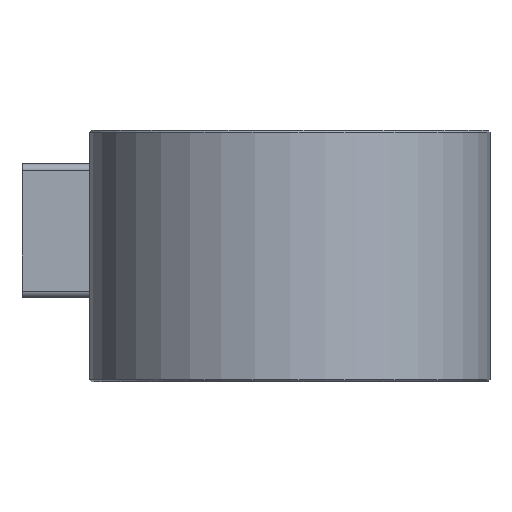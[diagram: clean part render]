
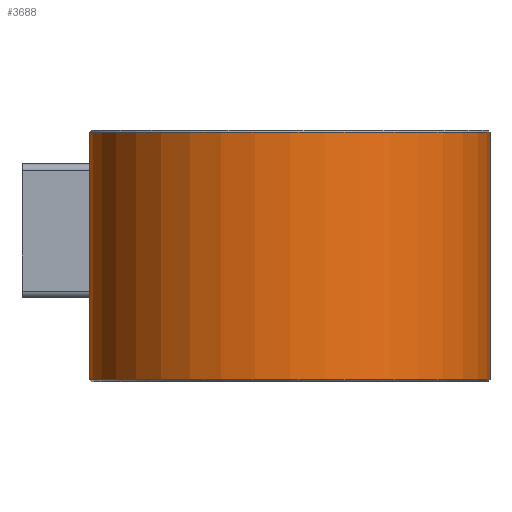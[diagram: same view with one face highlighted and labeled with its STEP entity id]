
A CAD part, front view. The second image highlights one B-rep face of the part: STEP entity #3688.
In plain terms, the highlighted cylindrical face has radius 59.8 mm (diameter 119.6 mm), a full revolution.
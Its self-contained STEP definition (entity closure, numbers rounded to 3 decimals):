
#45=FACE_BOUND('',#461,.T.);
#74=B_SPLINE_CURVE_WITH_KNOTS('',3,(#5529,#5530,#5531,#5532,#5533,#5534,
#5535,#5536,#5537,#5538,#5539,#5540,#5541,#5542,#5543,#5544,#5545,#5546),
 .UNSPECIFIED.,.F.,.F.,(4,2,2,2,2,2,2,2,4),(1.018,1.272,
1.527,1.781,2.036,2.29,2.545,
2.799,3.054),.UNSPECIFIED.);
#75=B_SPLINE_CURVE_WITH_KNOTS('',3,(#5548,#5549,#5550,#5551,#5552,#5553,
#5554,#5555,#5556,#5557),.UNSPECIFIED.,.F.,.F.,(4,2,2,2,4),(4.072,
4.326,4.581,4.835,5.09),
 .UNSPECIFIED.);
#76=B_SPLINE_CURVE_WITH_KNOTS('',3,(#5561,#5562,#5563,#5564,#5565,#5566,
#5567,#5568,#5569,#5570),.UNSPECIFIED.,.F.,.F.,(4,2,2,2,4),(3.054,
3.308,3.563,3.817,4.072),
 .UNSPECIFIED.);
#234=FACE_OUTER_BOUND('',#460,.T.);
#460=EDGE_LOOP('',(#2381,#2382,#2383,#2384,#2385,#2386));
#461=EDGE_LOOP('',(#2387,#2388,#2389));
#714=LINE('',#5611,#1015);
#1015=VECTOR('',#4421,59.8);
#1310=CIRCLE('',#3956,59.8);
#1311=CIRCLE('',#3957,59.8);
#1312=CIRCLE('',#3959,59.8);
#1313=CIRCLE('',#3960,59.8);
#1500=VERTEX_POINT('',#5527);
#1501=VERTEX_POINT('',#5528);
#1502=VERTEX_POINT('',#5547);
#1510=VERTEX_POINT('',#5601);
#1511=VERTEX_POINT('',#5602);
#1512=VERTEX_POINT('',#5607);
#1513=VERTEX_POINT('',#5608);
#1828=EDGE_CURVE('',#1500,#1501,#74,.T.);
#1829=EDGE_CURVE('',#1502,#1500,#75,.T.);
#1832=EDGE_CURVE('',#1501,#1502,#76,.T.);
#1843=EDGE_CURVE('',#1510,#1511,#1310,.T.);
#1844=EDGE_CURVE('',#1511,#1510,#1311,.T.);
#1846=EDGE_CURVE('',#1512,#1513,#1312,.T.);
#1847=EDGE_CURVE('',#1513,#1512,#1313,.T.);
#1848=EDGE_CURVE('',#1513,#1511,#714,.T.);
#2381=ORIENTED_EDGE('',*,*,#1846,.F.);
#2382=ORIENTED_EDGE('',*,*,#1847,.F.);
#2383=ORIENTED_EDGE('',*,*,#1848,.T.);
#2384=ORIENTED_EDGE('',*,*,#1843,.F.);
#2385=ORIENTED_EDGE('',*,*,#1844,.F.);
#2386=ORIENTED_EDGE('',*,*,#1848,.F.);
#2387=ORIENTED_EDGE('',*,*,#1832,.T.);
#2388=ORIENTED_EDGE('',*,*,#1829,.T.);
#2389=ORIENTED_EDGE('',*,*,#1828,.T.);
#3360=CYLINDRICAL_SURFACE('',#3958,59.8);
#3688=ADVANCED_FACE('',(#234,#45),#3360,.T.);
#3956=AXIS2_PLACEMENT_3D('',#5603,#4410,#4411);
#3957=AXIS2_PLACEMENT_3D('',#5604,#4412,#4413);
#3958=AXIS2_PLACEMENT_3D('',#5606,#4415,#4416);
#3959=AXIS2_PLACEMENT_3D('',#5609,#4417,#4418);
#3960=AXIS2_PLACEMENT_3D('',#5610,#4419,#4420);
#4410=DIRECTION('center_axis',(0.,0.,
1.));
#4411=DIRECTION('ref_axis',(-1.,0.,0.));
#4412=DIRECTION('center_axis',(0.,0.,
1.));
#4413=DIRECTION('ref_axis',(-1.,0.,0.));
#4415=DIRECTION('center_axis',(0.,0.,
-1.));
#4416=DIRECTION('ref_axis',(1.,0.,0.));
#4417=DIRECTION('center_axis',(0.,0.,
-1.));
#4418=DIRECTION('ref_axis',(-1.,0.,0.));
#4419=DIRECTION('center_axis',(0.,0.,
-1.));
#4420=DIRECTION('ref_axis',(-1.,0.,0.));
#4421=DIRECTION('',(0.,0.,1.));
#5527=CARTESIAN_POINT('',(20.,-67.4,-6.75));
#5528=CARTESIAN_POINT('',(20.,-67.4,6.75));
#5529=CARTESIAN_POINT('Ctrl Pts',(20.,-67.4,-6.75));
#5530=CARTESIAN_POINT('Ctrl Pts',(20.848,-67.4,-6.75));
#5531=CARTESIAN_POINT('Ctrl Pts',(21.753,-67.42,-6.58));
#5532=CARTESIAN_POINT('Ctrl Pts',(23.416,-67.492,-5.891));
#5533=CARTESIAN_POINT('Ctrl Pts',(24.174,-67.543,-5.372));
#5534=CARTESIAN_POINT('Ctrl Pts',(25.372,-67.639,-4.174));
#5535=CARTESIAN_POINT('Ctrl Pts',(25.891,-67.69,-3.416));
#5536=CARTESIAN_POINT('Ctrl Pts',(26.58,-67.762,-1.753));
#5537=CARTESIAN_POINT('Ctrl Pts',(26.75,-67.782,-0.848));
#5538=CARTESIAN_POINT('Ctrl Pts',(26.75,-67.782,0.848));
#5539=CARTESIAN_POINT('Ctrl Pts',(26.58,-67.762,1.753));
#5540=CARTESIAN_POINT('Ctrl Pts',(25.891,-67.69,3.416));
#5541=CARTESIAN_POINT('Ctrl Pts',(25.372,-67.639,4.174));
#5542=CARTESIAN_POINT('Ctrl Pts',(24.174,-67.543,5.372));
#5543=CARTESIAN_POINT('Ctrl Pts',(23.416,-67.492,5.891));
#5544=CARTESIAN_POINT('Ctrl Pts',(21.753,-67.42,6.58));
#5545=CARTESIAN_POINT('Ctrl Pts',(20.848,-67.4,6.75));
#5546=CARTESIAN_POINT('Ctrl Pts',(20.,-67.4,6.75));
#5547=CARTESIAN_POINT('',(13.25,-67.782,0.));
#5548=CARTESIAN_POINT('Ctrl Pts',(13.25,-67.782,0.));
#5549=CARTESIAN_POINT('Ctrl Pts',(13.25,-67.782,-0.848));
#5550=CARTESIAN_POINT('Ctrl Pts',(13.42,-67.762,-1.753));
#5551=CARTESIAN_POINT('Ctrl Pts',(14.109,-67.69,-3.416));
#5552=CARTESIAN_POINT('Ctrl Pts',(14.628,-67.639,-4.174));
#5553=CARTESIAN_POINT('Ctrl Pts',(15.826,-67.543,-5.372));
#5554=CARTESIAN_POINT('Ctrl Pts',(16.584,-67.492,-5.891));
#5555=CARTESIAN_POINT('Ctrl Pts',(18.247,-67.42,-6.58));
#5556=CARTESIAN_POINT('Ctrl Pts',(19.152,-67.4,-6.75));
#5557=CARTESIAN_POINT('Ctrl Pts',(20.,-67.4,-6.75));
#5561=CARTESIAN_POINT('Ctrl Pts',(20.,-67.4,6.75));
#5562=CARTESIAN_POINT('Ctrl Pts',(19.152,-67.4,6.75));
#5563=CARTESIAN_POINT('Ctrl Pts',(18.247,-67.42,6.58));
#5564=CARTESIAN_POINT('Ctrl Pts',(16.584,-67.492,5.891));
#5565=CARTESIAN_POINT('Ctrl Pts',(15.826,-67.543,5.372));
#5566=CARTESIAN_POINT('Ctrl Pts',(14.628,-67.639,4.174));
#5567=CARTESIAN_POINT('Ctrl Pts',(14.109,-67.69,3.416));
#5568=CARTESIAN_POINT('Ctrl Pts',(13.42,-67.762,1.753));
#5569=CARTESIAN_POINT('Ctrl Pts',(13.25,-67.782,0.848));
#5570=CARTESIAN_POINT('Ctrl Pts',(13.25,-67.782,0.));
#5601=CARTESIAN_POINT('',(79.8,-127.2,29.5));
#5602=CARTESIAN_POINT('',(-39.8,-127.2,29.5));
#5603=CARTESIAN_POINT('Origin',(20.,-127.2,29.5));
#5604=CARTESIAN_POINT('Origin',(20.,-127.2,29.5));
#5606=CARTESIAN_POINT('Origin',(20.,-127.2,-7.5));
#5607=CARTESIAN_POINT('',(79.8,-127.2,-44.5));
#5608=CARTESIAN_POINT('',(-39.8,-127.2,-44.5));
#5609=CARTESIAN_POINT('Origin',(20.,-127.2,-44.5));
#5610=CARTESIAN_POINT('Origin',(20.,-127.2,-44.5));
#5611=CARTESIAN_POINT('',(-39.8,-127.2,-7.5));
